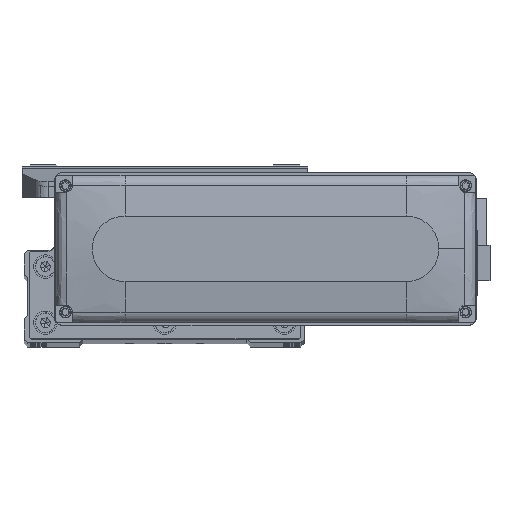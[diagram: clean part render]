
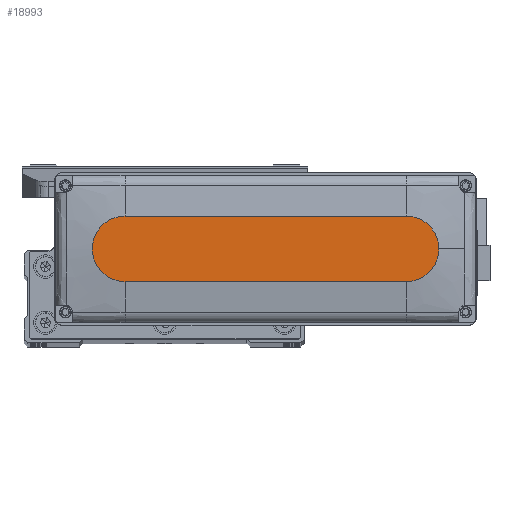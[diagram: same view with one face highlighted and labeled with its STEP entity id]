
A CAD part, top view. The second image highlights one B-rep face of the part: STEP entity #18993.
In plain terms, the highlighted planar face has unit normal (0, 0, 1).
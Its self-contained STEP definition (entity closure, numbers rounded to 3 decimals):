
#1579 = CIRCLE ( 'NONE', #28342, 14. ) ;
#2158 = VERTEX_POINT ( 'NONE', #12345 ) ;
#4624 = DIRECTION ( 'NONE',  ( 1., 0., 0. ) ) ;
#6919 = DIRECTION ( 'NONE',  ( 1., 0., 0. ) ) ;
#7826 = DIRECTION ( 'NONE',  ( 1., 0., 0. ) ) ;
#9516 = VECTOR ( 'NONE', #44947, 1000. ) ;
#10252 = CARTESIAN_POINT ( 'NONE',  ( -60., 14., 28.5 ) ) ;
#11409 = DIRECTION ( 'NONE',  ( 0., 0., 1. ) ) ;
#11426 = PLANE ( 'NONE',  #25134 ) ;
#11711 = EDGE_LOOP ( 'NONE', ( #26433, #18532, #31575, #18051, #29613 ) ) ;
#12345 = CARTESIAN_POINT ( 'NONE',  ( 60., -14., 28.5 ) ) ;
#12921 = DIRECTION ( 'NONE',  ( -1., 0., 0. ) ) ;
#13406 = CIRCLE ( 'NONE', #19548, 14. ) ;
#15322 = EDGE_CURVE ( 'NONE', #26761, #2158, #15772, .T. ) ;
#15688 = CARTESIAN_POINT ( 'NONE',  ( -60., -14., 28.5 ) ) ;
#15772 = LINE ( 'NONE', #30350, #9516 ) ;
#16237 = EDGE_CURVE ( 'NONE', #2158, #19993, #13406, .T. ) ;
#18051 = ORIENTED_EDGE ( 'NONE', *, *, #16237, .T. ) ;
#18183 = CIRCLE ( 'NONE', #44911, 14. ) ;
#18532 = ORIENTED_EDGE ( 'NONE', *, *, #45152, .T. ) ;
#18993 = ADVANCED_FACE ( 'NONE', ( #44197 ), #11426, .T. ) ;
#19548 = AXIS2_PLACEMENT_3D ( 'NONE', #22834, #37431, #4624 ) ;
#19993 = VERTEX_POINT ( 'NONE', #37131 ) ;
#21453 = VECTOR ( 'NONE', #12921, 1000. ) ;
#22401 = CARTESIAN_POINT ( 'NONE',  ( 60., 14., 28.5 ) ) ;
#22834 = CARTESIAN_POINT ( 'NONE',  ( 60., 0., 28.5 ) ) ;
#25104 = CARTESIAN_POINT ( 'NONE',  ( 60., 0., 28.5 ) ) ;
#25134 = AXIS2_PLACEMENT_3D ( 'NONE', #26007, #40610, #7826 ) ;
#25989 = DIRECTION ( 'NONE',  ( 1., 0., 0. ) ) ;
#26007 = CARTESIAN_POINT ( 'NONE',  ( 0., 0., 28.5 ) ) ;
#26433 = ORIENTED_EDGE ( 'NONE', *, *, #36312, .T. ) ;
#26761 = VERTEX_POINT ( 'NONE', #15688 ) ;
#28342 = AXIS2_PLACEMENT_3D ( 'NONE', #44180, #11409, #25989 ) ;
#29613 = ORIENTED_EDGE ( 'NONE', *, *, #34078, .T. ) ;
#30350 = CARTESIAN_POINT ( 'NONE',  ( -60., -14., 28.5 ) ) ;
#31083 = LINE ( 'NONE', #45685, #21453 ) ;
#31575 = ORIENTED_EDGE ( 'NONE', *, *, #15322, .T. ) ;
#34078 = EDGE_CURVE ( 'NONE', #19993, #36540, #18183, .T. ) ;
#36312 = EDGE_CURVE ( 'NONE', #36540, #45461, #31083, .T. ) ;
#36540 = VERTEX_POINT ( 'NONE', #22401 ) ;
#37131 = CARTESIAN_POINT ( 'NONE',  ( 74., 0., 28.5 ) ) ;
#37431 = DIRECTION ( 'NONE',  ( 0., 0., 1. ) ) ;
#39708 = DIRECTION ( 'NONE',  ( 0., 0., 1. ) ) ;
#40610 = DIRECTION ( 'NONE',  ( 0., 0., 1. ) ) ;
#44180 = CARTESIAN_POINT ( 'NONE',  ( -60., 0., 28.5 ) ) ;
#44197 = FACE_OUTER_BOUND ( 'NONE', #11711, .T. ) ;
#44911 = AXIS2_PLACEMENT_3D ( 'NONE', #25104, #39708, #6919 ) ;
#44947 = DIRECTION ( 'NONE',  ( 1., 0., 0. ) ) ;
#45152 = EDGE_CURVE ( 'NONE', #45461, #26761, #1579, .T. ) ;
#45461 = VERTEX_POINT ( 'NONE', #10252 ) ;
#45685 = CARTESIAN_POINT ( 'NONE',  ( -60., 14., 28.5 ) ) ;
